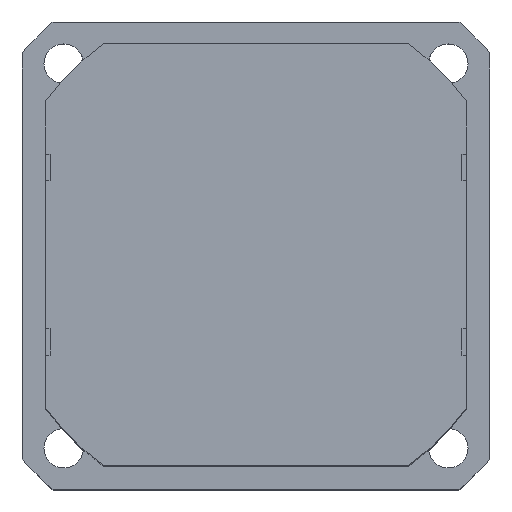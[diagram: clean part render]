
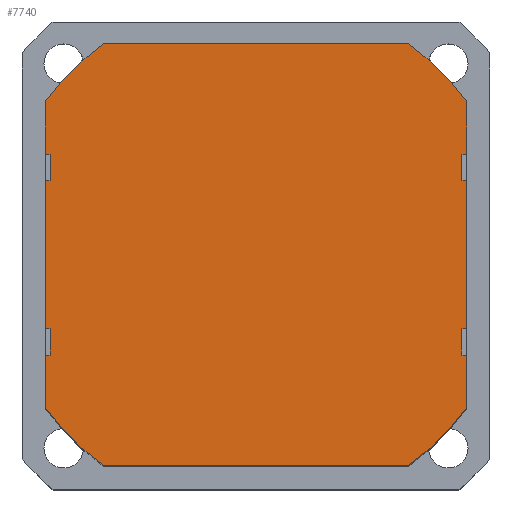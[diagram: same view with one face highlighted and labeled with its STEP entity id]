
A CAD part, top view. The second image highlights one B-rep face of the part: STEP entity #7740.
In plain terms, the highlighted planar face has unit normal (0, 0, 1).
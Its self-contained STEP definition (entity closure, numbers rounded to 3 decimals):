
#1883=CIRCLE('',#8331,79.);
#1884=CIRCLE('',#8332,79.);
#1885=CIRCLE('',#8333,79.);
#1886=CIRCLE('',#8334,79.);
#2314=VERTEX_POINT('',#11018);
#2315=VERTEX_POINT('',#11019);
#2316=VERTEX_POINT('',#11021);
#2317=VERTEX_POINT('',#11023);
#2318=VERTEX_POINT('',#11025);
#2319=VERTEX_POINT('',#11027);
#2320=VERTEX_POINT('',#11029);
#2321=VERTEX_POINT('',#11031);
#2322=VERTEX_POINT('',#11033);
#2323=VERTEX_POINT('',#11035);
#2324=VERTEX_POINT('',#11037);
#2325=VERTEX_POINT('',#11039);
#2326=VERTEX_POINT('',#11041);
#2327=VERTEX_POINT('',#11043);
#2328=VERTEX_POINT('',#11045);
#2329=VERTEX_POINT('',#11047);
#2330=VERTEX_POINT('',#11049);
#2331=VERTEX_POINT('',#11051);
#2332=VERTEX_POINT('',#11053);
#2333=VERTEX_POINT('',#11055);
#2334=VERTEX_POINT('',#11057);
#2335=VERTEX_POINT('',#11059);
#2336=VERTEX_POINT('',#11061);
#2337=VERTEX_POINT('',#11063);
#3086=LINE('',#11017,#9166);
#3087=LINE('',#11020,#9167);
#3088=LINE('',#11022,#9168);
#3089=LINE('',#11024,#9169);
#3090=LINE('',#11028,#9170);
#3091=LINE('',#11032,#9171);
#3092=LINE('',#11034,#9172);
#3093=LINE('',#11036,#9173);
#3094=LINE('',#11038,#9174);
#3095=LINE('',#11040,#9175);
#3096=LINE('',#11042,#9176);
#3097=LINE('',#11044,#9177);
#3098=LINE('',#11046,#9178);
#3099=LINE('',#11048,#9179);
#3100=LINE('',#11052,#9180);
#3101=LINE('',#11056,#9181);
#3102=LINE('',#11058,#9182);
#3103=LINE('',#11060,#9183);
#3104=LINE('',#11062,#9184);
#3105=LINE('',#11064,#9185);
#3750=EDGE_CURVE('',#2314,#2315,#3086,.T.);
#3751=EDGE_CURVE('',#2316,#2314,#3087,.T.);
#3752=EDGE_CURVE('',#2317,#2316,#3088,.T.);
#3753=EDGE_CURVE('',#2318,#2317,#3089,.T.);
#3754=EDGE_CURVE('',#2319,#2318,#1883,.T.);
#3755=EDGE_CURVE('',#2320,#2319,#3090,.T.);
#3756=EDGE_CURVE('',#2321,#2320,#1884,.T.);
#3757=EDGE_CURVE('',#2322,#2321,#3091,.T.);
#3758=EDGE_CURVE('',#2323,#2322,#3092,.T.);
#3759=EDGE_CURVE('',#2324,#2323,#3093,.T.);
#3760=EDGE_CURVE('',#2325,#2324,#3094,.T.);
#3761=EDGE_CURVE('',#2326,#2325,#3095,.T.);
#3762=EDGE_CURVE('',#2327,#2326,#3096,.T.);
#3763=EDGE_CURVE('',#2328,#2327,#3097,.T.);
#3764=EDGE_CURVE('',#2329,#2328,#3098,.T.);
#3765=EDGE_CURVE('',#2330,#2329,#3099,.T.);
#3766=EDGE_CURVE('',#2331,#2330,#1885,.T.);
#3767=EDGE_CURVE('',#2332,#2331,#3100,.T.);
#3768=EDGE_CURVE('',#2333,#2332,#1886,.T.);
#3769=EDGE_CURVE('',#2334,#2333,#3101,.T.);
#3770=EDGE_CURVE('',#2335,#2334,#3102,.T.);
#3771=EDGE_CURVE('',#2336,#2335,#3103,.T.);
#3772=EDGE_CURVE('',#2337,#2336,#3104,.T.);
#3773=EDGE_CURVE('',#2315,#2337,#3105,.T.);
#4982=ORIENTED_EDGE('',*,*,#3750,.F.);
#4983=ORIENTED_EDGE('',*,*,#3751,.F.);
#4984=ORIENTED_EDGE('',*,*,#3752,.F.);
#4985=ORIENTED_EDGE('',*,*,#3753,.F.);
#4986=ORIENTED_EDGE('',*,*,#3754,.F.);
#4987=ORIENTED_EDGE('',*,*,#3755,.F.);
#4988=ORIENTED_EDGE('',*,*,#3756,.F.);
#4989=ORIENTED_EDGE('',*,*,#3757,.F.);
#4990=ORIENTED_EDGE('',*,*,#3758,.F.);
#4991=ORIENTED_EDGE('',*,*,#3759,.F.);
#4992=ORIENTED_EDGE('',*,*,#3760,.F.);
#4993=ORIENTED_EDGE('',*,*,#3761,.F.);
#4994=ORIENTED_EDGE('',*,*,#3762,.F.);
#4995=ORIENTED_EDGE('',*,*,#3763,.F.);
#4996=ORIENTED_EDGE('',*,*,#3764,.F.);
#4997=ORIENTED_EDGE('',*,*,#3765,.F.);
#4998=ORIENTED_EDGE('',*,*,#3766,.F.);
#4999=ORIENTED_EDGE('',*,*,#3767,.F.);
#5000=ORIENTED_EDGE('',*,*,#3768,.F.);
#5001=ORIENTED_EDGE('',*,*,#3769,.F.);
#5002=ORIENTED_EDGE('',*,*,#3770,.F.);
#5003=ORIENTED_EDGE('',*,*,#3771,.F.);
#5004=ORIENTED_EDGE('',*,*,#3772,.F.);
#5005=ORIENTED_EDGE('',*,*,#3773,.F.);
#6704=EDGE_LOOP('',(#4982,#4983,#4984,#4985,#4986,#4987,#4988,#4989,#4990,
#4991,#4992,#4993,#4994,#4995,#4996,#4997,#4998,#4999,#5000,#5001,#5002,
#5003,#5004,#5005));
#7236=FACE_BOUND('',#6704,.T.);
#7740=ADVANCED_FACE('',(#7236),#9673,.T.);
#8330=AXIS2_PLACEMENT_3D('',#11016,#14899,$);
#8331=AXIS2_PLACEMENT_3D('',#11026,#14904,#14905);
#8332=AXIS2_PLACEMENT_3D('',#11030,#14907,#14908);
#8333=AXIS2_PLACEMENT_3D('',#11050,#14918,#14919);
#8334=AXIS2_PLACEMENT_3D('',#11054,#14921,#14922);
#9166=VECTOR('',#14900,1.);
#9167=VECTOR('',#14901,1.);
#9168=VECTOR('',#14902,1.);
#9169=VECTOR('',#14903,1.);
#9170=VECTOR('',#14906,1.);
#9171=VECTOR('',#14909,1.);
#9172=VECTOR('',#14910,1.);
#9173=VECTOR('',#14911,1.);
#9174=VECTOR('',#14912,1.);
#9175=VECTOR('',#14913,1.);
#9176=VECTOR('',#14914,1.);
#9177=VECTOR('',#14915,1.);
#9178=VECTOR('',#14916,1.);
#9179=VECTOR('',#14917,1.);
#9180=VECTOR('',#14920,1.);
#9181=VECTOR('',#14923,1.);
#9182=VECTOR('',#14924,1.);
#9183=VECTOR('',#14925,1.);
#9184=VECTOR('',#14926,1.);
#9185=VECTOR('',#14927,1.);
#9673=PLANE('',#8330);
#11016=CARTESIAN_POINT('',(0.,0.,
130.));
#11017=CARTESIAN_POINT('',(62.5,22.5,130.));
#11018=CARTESIAN_POINT('',(62.5,22.5,130.));
#11019=CARTESIAN_POINT('',(64.,22.5,130.));
#11020=CARTESIAN_POINT('',(62.5,30.5,130.));
#11021=CARTESIAN_POINT('',(62.5,30.5,130.));
#11022=CARTESIAN_POINT('',(64.,30.5,130.));
#11023=CARTESIAN_POINT('',(64.,30.5,130.));
#11024=CARTESIAN_POINT('',(64.,46.314,130.));
#11025=CARTESIAN_POINT('',(64.,46.314,130.));
#11026=CARTESIAN_POINT('',(0.,0.,130.));
#11027=CARTESIAN_POINT('',(46.314,64.,130.));
#11028=CARTESIAN_POINT('',(-46.314,64.,130.));
#11029=CARTESIAN_POINT('',(-46.314,64.,130.));
#11030=CARTESIAN_POINT('',(0.,0.,130.));
#11031=CARTESIAN_POINT('',(-64.,46.314,130.));
#11032=CARTESIAN_POINT('',(-64.,30.5,130.));
#11033=CARTESIAN_POINT('',(-64.,30.5,130.));
#11034=CARTESIAN_POINT('',(-62.5,30.5,130.));
#11035=CARTESIAN_POINT('',(-62.5,30.5,130.));
#11036=CARTESIAN_POINT('',(-62.5,22.5,130.));
#11037=CARTESIAN_POINT('',(-62.5,22.5,130.));
#11038=CARTESIAN_POINT('',(-64.,22.5,130.));
#11039=CARTESIAN_POINT('',(-64.,22.5,130.));
#11040=CARTESIAN_POINT('',(-64.,-22.5,130.));
#11041=CARTESIAN_POINT('',(-64.,-22.5,130.));
#11042=CARTESIAN_POINT('',(-62.5,-22.5,130.));
#11043=CARTESIAN_POINT('',(-62.5,-22.5,130.));
#11044=CARTESIAN_POINT('',(-62.5,-30.5,130.));
#11045=CARTESIAN_POINT('',(-62.5,-30.5,130.));
#11046=CARTESIAN_POINT('',(-64.,-30.5,130.));
#11047=CARTESIAN_POINT('',(-64.,-30.5,130.));
#11048=CARTESIAN_POINT('',(-64.,-46.314,130.));
#11049=CARTESIAN_POINT('',(-64.,-46.314,130.));
#11050=CARTESIAN_POINT('',(0.,0.,130.));
#11051=CARTESIAN_POINT('',(-46.314,-64.,130.));
#11052=CARTESIAN_POINT('',(46.314,-64.,130.));
#11053=CARTESIAN_POINT('',(46.314,-64.,130.));
#11054=CARTESIAN_POINT('',(0.,0.,130.));
#11055=CARTESIAN_POINT('',(64.,-46.314,130.));
#11056=CARTESIAN_POINT('',(64.,-30.5,130.));
#11057=CARTESIAN_POINT('',(64.,-30.5,130.));
#11058=CARTESIAN_POINT('',(62.5,-30.5,130.));
#11059=CARTESIAN_POINT('',(62.5,-30.5,130.));
#11060=CARTESIAN_POINT('',(62.5,-22.5,130.));
#11061=CARTESIAN_POINT('',(62.5,-22.5,130.));
#11062=CARTESIAN_POINT('',(64.,-22.5,130.));
#11063=CARTESIAN_POINT('',(64.,-22.5,130.));
#11064=CARTESIAN_POINT('',(64.,22.5,130.));
#14899=DIRECTION('',(0.,0.,1.));
#14900=DIRECTION('',(1.,0.,0.));
#14901=DIRECTION('',(0.,-1.,0.));
#14902=DIRECTION('',(-1.,0.,0.));
#14903=DIRECTION('',(0.,-1.,0.));
#14904=DIRECTION('',(0.,0.,-1.));
#14905=DIRECTION('',(79.,0.,0.));
#14906=DIRECTION('',(1.,0.,0.));
#14907=DIRECTION('',(0.,0.,-1.));
#14908=DIRECTION('',(79.,0.,0.));
#14909=DIRECTION('',(0.,1.,0.));
#14910=DIRECTION('',(-1.,0.,0.));
#14911=DIRECTION('',(0.,1.,0.));
#14912=DIRECTION('',(1.,0.,0.));
#14913=DIRECTION('',(0.,1.,0.));
#14914=DIRECTION('',(-1.,0.,0.));
#14915=DIRECTION('',(0.,1.,0.));
#14916=DIRECTION('',(1.,0.,0.));
#14917=DIRECTION('',(0.,1.,0.));
#14918=DIRECTION('',(0.,0.,-1.));
#14919=DIRECTION('',(79.,0.,0.));
#14920=DIRECTION('',(-1.,0.,0.));
#14921=DIRECTION('',(0.,0.,-1.));
#14922=DIRECTION('',(79.,0.,0.));
#14923=DIRECTION('',(0.,-1.,0.));
#14924=DIRECTION('',(1.,0.,0.));
#14925=DIRECTION('',(0.,-1.,0.));
#14926=DIRECTION('',(-1.,0.,0.));
#14927=DIRECTION('',(0.,-1.,0.));
